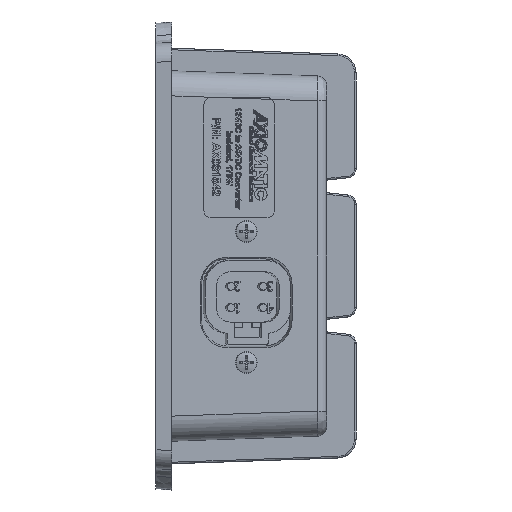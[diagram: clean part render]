
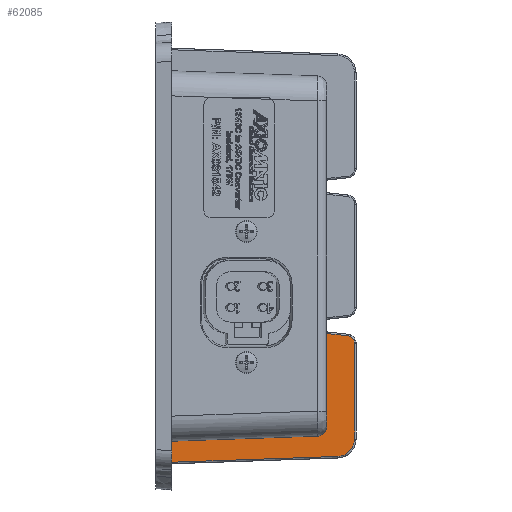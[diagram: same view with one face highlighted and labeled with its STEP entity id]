
A CAD part, left-side view. The second image highlights one B-rep face of the part: STEP entity #62085.
In plain terms, the highlighted planar face has unit normal (-1, -0.026, 0).
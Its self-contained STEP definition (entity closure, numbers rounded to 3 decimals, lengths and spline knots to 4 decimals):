
#38=ELLIPSE('',#65150,0.1182,0.1181);
#169=ELLIPSE('',#65372,0.0985,0.0984);
#170=ELLIPSE('',#65373,0.2166,0.2165);
#4812=PLANE('',#65371);
#6813=FACE_OUTER_BOUND('',#10413,.T.);
#10413=EDGE_LOOP('',(#46302,#46303,#46304,#46305,#46306,#46307,#46308,#46309,
#46310));
#15219=LINE('',#97345,#20316);
#15390=LINE('',#98336,#20487);
#15391=LINE('',#98340,#20488);
#15392=LINE('',#98341,#20489);
#15393=LINE('',#98343,#20490);
#15394=LINE('',#98345,#20491);
#20316=VECTOR('',#74098,0.3937);
#20487=VECTOR('',#74715,0.3937);
#20488=VECTOR('',#74718,0.3937);
#20489=VECTOR('',#74719,0.3937);
#20490=VECTOR('',#74720,0.3937);
#20491=VECTOR('',#74721,0.3937);
#26412=VERTEX_POINT('',#97342);
#26413=VERTEX_POINT('',#97344);
#26414=VERTEX_POINT('',#97348);
#26677=VERTEX_POINT('',#98334);
#26678=VERTEX_POINT('',#98335);
#26679=VERTEX_POINT('',#98337);
#26680=VERTEX_POINT('',#98339);
#26681=VERTEX_POINT('',#98342);
#26682=VERTEX_POINT('',#98344);
#33309=EDGE_CURVE('',#26412,#26413,#15219,.F.);
#33311=EDGE_CURVE('',#26413,#26414,#38,.F.);
#33643=EDGE_CURVE('',#26677,#26678,#15390,.T.);
#33644=EDGE_CURVE('',#26679,#26677,#169,.T.);
#33645=EDGE_CURVE('',#26680,#26679,#15391,.T.);
#33646=EDGE_CURVE('',#26414,#26680,#15392,.T.);
#33647=EDGE_CURVE('',#26681,#26412,#15393,.T.);
#33648=EDGE_CURVE('',#26682,#26681,#15394,.T.);
#33649=EDGE_CURVE('',#26678,#26682,#170,.T.);
#46302=ORIENTED_EDGE('',*,*,#33643,.F.);
#46303=ORIENTED_EDGE('',*,*,#33644,.F.);
#46304=ORIENTED_EDGE('',*,*,#33645,.F.);
#46305=ORIENTED_EDGE('',*,*,#33646,.F.);
#46306=ORIENTED_EDGE('',*,*,#33311,.F.);
#46307=ORIENTED_EDGE('',*,*,#33309,.F.);
#46308=ORIENTED_EDGE('',*,*,#33647,.F.);
#46309=ORIENTED_EDGE('',*,*,#33648,.F.);
#46310=ORIENTED_EDGE('',*,*,#33649,.F.);
#62085=ADVANCED_FACE('',(#6813),#4812,.F.);
#65150=AXIS2_PLACEMENT_3D('',#97349,#74102,#74103);
#65371=AXIS2_PLACEMENT_3D('',#98333,#74713,#74714);
#65372=AXIS2_PLACEMENT_3D('',#98338,#74716,#74717);
#65373=AXIS2_PLACEMENT_3D('',#98346,#74722,#74723);
#74098=DIRECTION('',(-0.026,0.999,-0.035));
#74102=DIRECTION('center_axis',(1.,0.026,0.));
#74103=DIRECTION('ref_axis',(0.026,-1.,0.));
#74713=DIRECTION('center_axis',(1.,0.026,0.));
#74714=DIRECTION('ref_axis',(0.,0.,-1.));
#74715=DIRECTION('',(0.,0.,-1.));
#74716=DIRECTION('center_axis',(1.,0.026,0.));
#74717=DIRECTION('ref_axis',(0.026,-1.,0.));
#74718=DIRECTION('',(0.026,-0.994,-0.104));
#74719=DIRECTION('',(0.,0.,1.));
#74720=DIRECTION('',(0.,0.,1.));
#74721=DIRECTION('',(-0.026,0.999,-0.035));
#74722=DIRECTION('center_axis',(1.,0.026,0.));
#74723=DIRECTION('ref_axis',(0.026,-1.,0.));
#97342=CARTESIAN_POINT('',(-3.1738,1.835,-2.3048));
#97344=CARTESIAN_POINT('',(-3.1262,0.021,-2.2415));
#97345=CARTESIAN_POINT('',(-3.1283,0.0979,-2.2442));
#97348=CARTESIAN_POINT('',(-3.1233,-0.093,-2.1234));
#97349=CARTESIAN_POINT('Origin',(-3.1264,0.0251,-2.1234));
#98333=CARTESIAN_POINT('Origin',(-3.1325,0.2588,0.));
#98334=CARTESIAN_POINT('',(-3.1142,-0.439,-1.0896));
#98335=CARTESIAN_POINT('',(-3.1142,-0.439,-2.2778));
#98336=CARTESIAN_POINT('',(-3.1142,-0.439,0.));
#98337=CARTESIAN_POINT('',(-3.1165,-0.3509,-0.9917));
#98338=CARTESIAN_POINT('Origin',(-3.1168,-0.3406,-1.0896));
#98339=CARTESIAN_POINT('',(-3.1233,-0.093,-0.9646));
#98340=CARTESIAN_POINT('',(-3.1244,-0.0497,-0.9601));
#98341=CARTESIAN_POINT('',(-3.1233,-0.093,0.));
#98342=CARTESIAN_POINT('',(-3.1738,1.835,-2.5663));
#98343=CARTESIAN_POINT('',(-3.1738,1.835,-2.586));
#98344=CARTESIAN_POINT('',(-3.1197,-0.2301,-2.4942));
#98345=CARTESIAN_POINT('',(-3.1519,1.0022,-2.5372));
#98346=CARTESIAN_POINT('Origin',(-3.1199,-0.2225,-2.2778));
